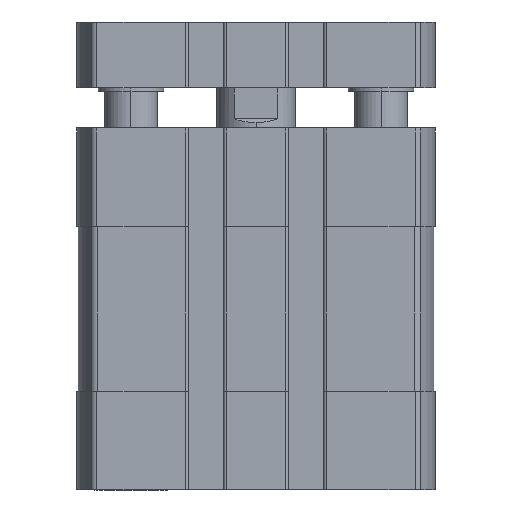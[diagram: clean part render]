
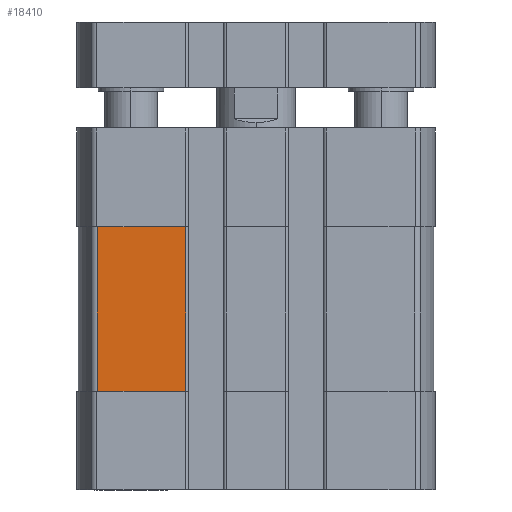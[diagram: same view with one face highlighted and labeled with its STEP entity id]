
A CAD part, front view. The second image highlights one B-rep face of the part: STEP entity #18410.
In plain terms, the highlighted planar face has unit normal (0, -1, 0) as drawn and (-1, 0, 0) by its records, which use the part's own axes.
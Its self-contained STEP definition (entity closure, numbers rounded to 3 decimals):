
#678 = CARTESIAN_POINT ( 'NONE',  ( -27., 10.7, -40. ) ) ;
#1103 = VERTEX_POINT ( 'NONE', #11894 ) ;
#1549 = EDGE_CURVE ( 'NONE', #13611, #16378, #23193, .T. ) ;
#2686 = ORIENTED_EDGE ( 'NONE', *, *, #4432, .T. ) ;
#2751 = CARTESIAN_POINT ( 'NONE',  ( -27., 10.7, -40. ) ) ;
#3463 = DIRECTION ( 'NONE',  ( 0., -1., 0. ) ) ;
#4193 = VECTOR ( 'NONE', #3463, 1000. ) ;
#4334 = DIRECTION ( 'NONE',  ( 0., 0., -1. ) ) ;
#4432 = EDGE_CURVE ( 'NONE', #16378, #17806, #19199, .T. ) ;
#4640 = VECTOR ( 'NONE', #4334, 1000. ) ;
#4778 = ORIENTED_EDGE ( 'NONE', *, *, #1549, .T. ) ;
#5030 = ORIENTED_EDGE ( 'NONE', *, *, #19695, .T. ) ;
#5646 = CARTESIAN_POINT ( 'NONE',  ( -27., 24.093, -40. ) ) ;
#5753 = PLANE ( 'NONE',  #21917 ) ;
#7520 = DIRECTION ( 'NONE',  ( -1., 0., 0. ) ) ;
#10954 = CARTESIAN_POINT ( 'NONE',  ( -27., 0., -15. ) ) ;
#11683 = EDGE_LOOP ( 'NONE', ( #4778, #2686, #21815, #5030 ) ) ;
#11894 = CARTESIAN_POINT ( 'NONE',  ( -27., 24.093, -15. ) ) ;
#12372 = CARTESIAN_POINT ( 'NONE',  ( -27., 24.093, -40. ) ) ;
#12553 = EDGE_CURVE ( 'NONE', #17806, #1103, #17891, .T. ) ;
#13611 = VERTEX_POINT ( 'NONE', #5646 ) ;
#14460 = VECTOR ( 'NONE', #15283, 1000. ) ;
#15033 = CARTESIAN_POINT ( 'NONE',  ( -27., 24.093, -40. ) ) ;
#15283 = DIRECTION ( 'NONE',  ( 0., 0., 1. ) ) ;
#16053 = CARTESIAN_POINT ( 'NONE',  ( -27., 10.7, -15. ) ) ;
#16378 = VERTEX_POINT ( 'NONE', #678 ) ;
#17806 = VERTEX_POINT ( 'NONE', #16053 ) ;
#17891 = LINE ( 'NONE', #10954, #22664 ) ;
#18320 = LINE ( 'NONE', #15033, #4640 ) ;
#18410 = ADVANCED_FACE ( 'NONE', ( #19217 ), #5753, .T. ) ;
#19199 = LINE ( 'NONE', #2751, #14460 ) ;
#19217 = FACE_OUTER_BOUND ( 'NONE', #11683, .T. ) ;
#19695 = EDGE_CURVE ( 'NONE', #1103, #13611, #18320, .T. ) ;
#19870 = CARTESIAN_POINT ( 'NONE',  ( -27., 24.093, -40. ) ) ;
#20017 = DIRECTION ( 'NONE',  ( 0., 0., 1. ) ) ;
#21676 = DIRECTION ( 'NONE',  ( 0., 1., 0. ) ) ;
#21815 = ORIENTED_EDGE ( 'NONE', *, *, #12553, .T. ) ;
#21917 = AXIS2_PLACEMENT_3D ( 'NONE', #19870, #7520, #20017 ) ;
#22664 = VECTOR ( 'NONE', #21676, 1000. ) ;
#23193 = LINE ( 'NONE', #12372, #4193 ) ;
